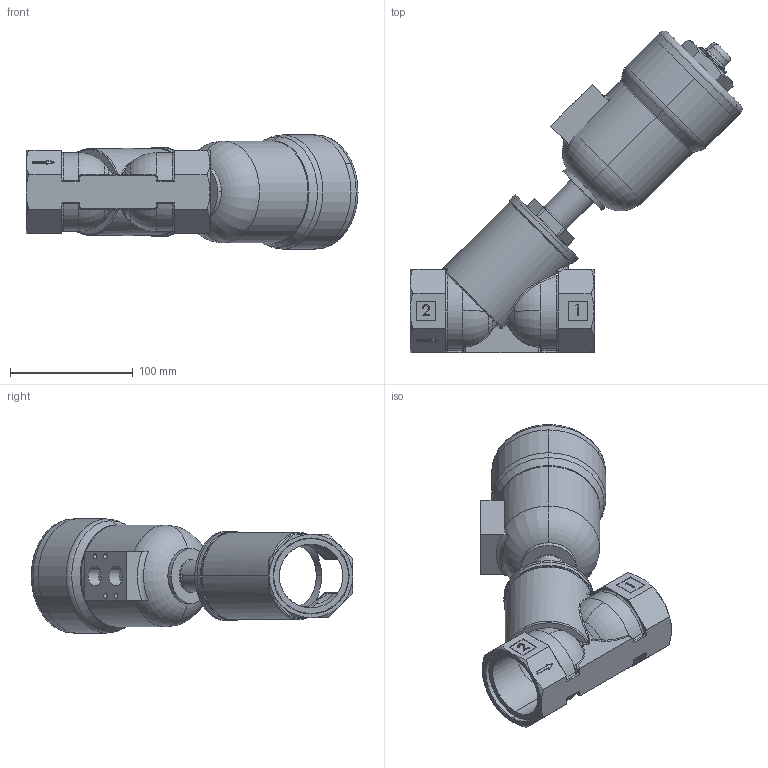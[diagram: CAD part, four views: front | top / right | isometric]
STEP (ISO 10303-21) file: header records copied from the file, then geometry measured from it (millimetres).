
FILE_DESCRIPTION (( 'STEP AP203' ), '1' );
FILE_NAME ('PCIPFM_050_2_4.STEP', '2018-03-22T11:48:09', ( 'user' ), ( '' ), 'SwSTEP 2.0', 'SolidWorks 2013', '' );
FILE_SCHEMA (( 'CONFIG_CONTROL_DESIGN' ));
Length unit declared in the file: millimetre
Products named in the file (1): PCIPFM_050_2_4
Bounding box: 270.63 x 262.13 x 93 mm (x, y, z)
Surface area: 131046.5 mm2 (no closed solid volume)
Topology: 0 solids, 5 shells, 375 faces, 1021 edges, 640 vertices
Faces by surface type: plane 129, cylinder 90, torus 55, bspline 52, cone 45, sphere 4
Entity records: 14516 total; most frequent: CARTESIAN_POINT 5496, ORIENTED_EDGE 1864, DIRECTION 1791, EDGE_CURVE 1019, AXIS2_PLACEMENT_3D 681, VERTEX_POINT 640, LINE 429, VECTOR 429
